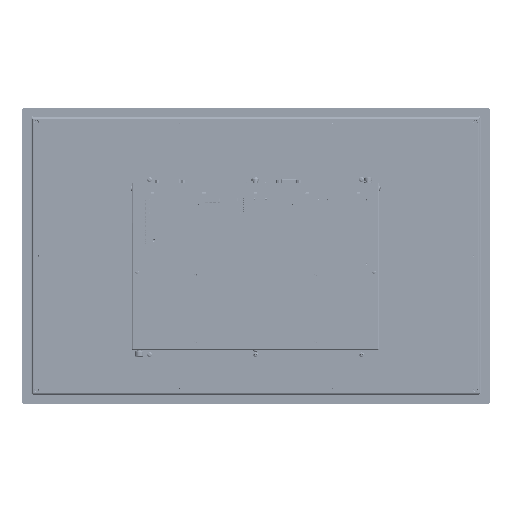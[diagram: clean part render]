
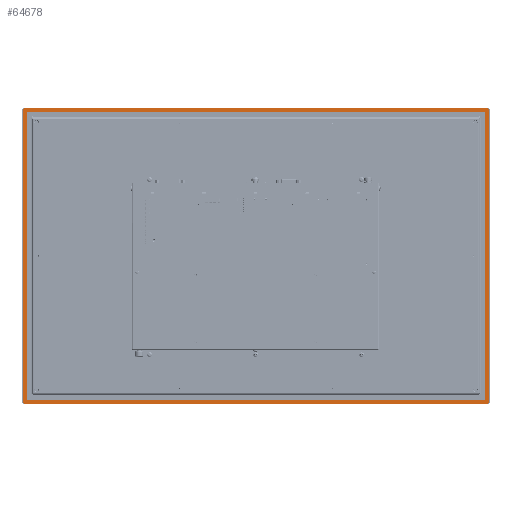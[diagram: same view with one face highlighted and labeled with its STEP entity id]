
A CAD part, front view. The second image highlights one B-rep face of the part: STEP entity #64678.
In plain terms, the highlighted planar face has unit normal (0, -1, 0).
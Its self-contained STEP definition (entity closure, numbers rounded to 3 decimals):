
#216 = VECTOR ( 'NONE', #595369, 1000. ) ;
#5799 = CARTESIAN_POINT ( 'NONE',  ( 283.25, 0.5, 180. ) ) ;
#6100 = CARTESIAN_POINT ( 'NONE',  ( -288.25, 0.5, 184. ) ) ;
#9720 = AXIS2_PLACEMENT_3D ( 'NONE', #310415, #46384, #246623 ) ;
#20400 = CARTESIAN_POINT ( 'NONE',  ( 282.25, 0.5, 181. ) ) ;
#21678 = EDGE_CURVE ( 'NONE', #822191, #480176, #439517, .T. ) ;
#46384 = DIRECTION ( 'NONE',  ( 0., -1., 0. ) ) ;
#46516 = ORIENTED_EDGE ( 'NONE', *, *, #21678, .F. ) ;
#49496 = VERTEX_POINT ( 'NONE', #373997 ) ;
#49665 = CARTESIAN_POINT ( 'NONE',  ( 286.25, 0.5, -177. ) ) ;
#51440 = VERTEX_POINT ( 'NONE', #67295 ) ;
#55913 = DIRECTION ( 'NONE',  ( 0., 0., 1. ) ) ;
#64678 = ADVANCED_FACE ( 'NONE', ( #754640, #401723 ), #76251, .T. ) ;
#66071 = CARTESIAN_POINT ( 'NONE',  ( 283.25, 0.5, -173. ) ) ;
#67295 = CARTESIAN_POINT ( 'NONE',  ( -282.25, 0.5, 181. ) ) ;
#68033 = EDGE_CURVE ( 'NONE', #578069, #822191, #477384, .T. ) ;
#69917 = DIRECTION ( 'NONE',  ( 0., 0., 1. ) ) ;
#73895 = CARTESIAN_POINT ( 'NONE',  ( 283.25, 0.5, -173. ) ) ;
#76251 = PLANE ( 'NONE',  #389884 ) ;
#82241 = CARTESIAN_POINT ( 'NONE',  ( -283.25, 0.5, 180. ) ) ;
#84056 = VECTOR ( 'NONE', #708251, 1000. ) ;
#105537 = VECTOR ( 'NONE', #423422, 1000. ) ;
#107739 = CARTESIAN_POINT ( 'NONE',  ( 286.25, 0.5, -179. ) ) ;
#112693 = CARTESIAN_POINT ( 'NONE',  ( -282.25, 0.5, -173. ) ) ;
#123185 = LINE ( 'NONE', #464792, #455495 ) ;
#146941 = CARTESIAN_POINT ( 'NONE',  ( 286.25, 0.5, -179. ) ) ;
#163082 = VERTEX_POINT ( 'NONE', #493853 ) ;
#178044 = LINE ( 'NONE', #693025, #105537 ) ;
#205346 = CARTESIAN_POINT ( 'NONE',  ( -286.25, 0.5, 186. ) ) ;
#208071 = AXIS2_PLACEMENT_3D ( 'NONE', #210409, #749844, #352369 ) ;
#210409 = CARTESIAN_POINT ( 'NONE',  ( -286.25, 0.5, -177. ) ) ;
#215835 = ORIENTED_EDGE ( 'NONE', *, *, #387143, .F. ) ;
#218406 = DIRECTION ( 'NONE',  ( 0., -1., 0. ) ) ;
#222502 = DIRECTION ( 'NONE',  ( 1., 0., 0. ) ) ;
#225695 = ORIENTED_EDGE ( 'NONE', *, *, #449659, .F. ) ;
#240923 = CIRCLE ( 'NONE', #208071, 2. ) ;
#246623 = DIRECTION ( 'NONE',  ( 0., 0., -1. ) ) ;
#248210 = CARTESIAN_POINT ( 'NONE',  ( 282.25, 0.5, 181. ) ) ;
#264758 = CARTESIAN_POINT ( 'NONE',  ( 286.25, 0.5, 184. ) ) ;
#267467 = VERTEX_POINT ( 'NONE', #20400 ) ;
#268394 = DIRECTION ( 'NONE',  ( 1., 0., 0. ) ) ;
#269979 = EDGE_CURVE ( 'NONE', #49496, #486771, #326264, .T. ) ;
#280053 = EDGE_CURVE ( 'NONE', #740466, #855498, #787160, .T. ) ;
#282230 = CARTESIAN_POINT ( 'NONE',  ( 0., 0.5, 0. ) ) ;
#294331 = ORIENTED_EDGE ( 'NONE', *, *, #269979, .F. ) ;
#298277 = EDGE_CURVE ( 'NONE', #267467, #51440, #473423, .T. ) ;
#299379 = VECTOR ( 'NONE', #860733, 1000. ) ;
#304335 = DIRECTION ( 'NONE',  ( 0., -1., 0. ) ) ;
#310415 = CARTESIAN_POINT ( 'NONE',  ( 282.25, 0.5, -173. ) ) ;
#315363 = AXIS2_PLACEMENT_3D ( 'NONE', #49665, #513902, #580652 ) ;
#316214 = ORIENTED_EDGE ( 'NONE', *, *, #356282, .F. ) ;
#326264 = LINE ( 'NONE', #467498, #606892 ) ;
#346884 = CIRCLE ( 'NONE', #394014, 2. ) ;
#348419 = CARTESIAN_POINT ( 'NONE',  ( 288.25, 0.5, -177. ) ) ;
#352369 = DIRECTION ( 'NONE',  ( 0., 0., -1. ) ) ;
#352388 = ORIENTED_EDGE ( 'NONE', *, *, #663897, .F. ) ;
#356282 = EDGE_CURVE ( 'NONE', #805268, #390129, #123185, .T. ) ;
#361595 = CARTESIAN_POINT ( 'NONE',  ( 282.25, 0.5, 180. ) ) ;
#365815 = CARTESIAN_POINT ( 'NONE',  ( 286.25, 0.5, 186. ) ) ;
#368197 = CARTESIAN_POINT ( 'NONE',  ( -286.25, 0.5, -179. ) ) ;
#372892 = ORIENTED_EDGE ( 'NONE', *, *, #741169, .F. ) ;
#373997 = CARTESIAN_POINT ( 'NONE',  ( -288.25, 0.5, -177. ) ) ;
#387143 = EDGE_CURVE ( 'NONE', #390129, #740466, #524156, .T. ) ;
#389884 = AXIS2_PLACEMENT_3D ( 'NONE', #282230, #218406, #801607 ) ;
#390129 = VERTEX_POINT ( 'NONE', #365815 ) ;
#393883 = ORIENTED_EDGE ( 'NONE', *, *, #298277, .F. ) ;
#394014 = AXIS2_PLACEMENT_3D ( 'NONE', #746401, #734976, #470977 ) ;
#395831 = EDGE_CURVE ( 'NONE', #855498, #718953, #500641, .T. ) ;
#401723 = FACE_OUTER_BOUND ( 'NONE', #507178, .T. ) ;
#420548 = CIRCLE ( 'NONE', #9720, 1. ) ;
#423422 = DIRECTION ( 'NONE',  ( 1., 0., 0. ) ) ;
#432085 = ORIENTED_EDGE ( 'NONE', *, *, #280053, .F. ) ;
#437413 = ORIENTED_EDGE ( 'NONE', *, *, #676811, .F. ) ;
#439517 = CIRCLE ( 'NONE', #838933, 1. ) ;
#443932 = VECTOR ( 'NONE', #732608, 1000. ) ;
#449659 = EDGE_CURVE ( 'NONE', #480176, #163082, #178044, .T. ) ;
#450681 = ORIENTED_EDGE ( 'NONE', *, *, #836974, .F. ) ;
#455495 = VECTOR ( 'NONE', #268394, 1000. ) ;
#461263 = EDGE_LOOP ( 'NONE', ( #225695, #46516, #804258, #489293, #393883, #450681, #372892, #437413 ) ) ;
#464792 = CARTESIAN_POINT ( 'NONE',  ( -286.25, 0.5, 186. ) ) ;
#467498 = CARTESIAN_POINT ( 'NONE',  ( -288.25, 0.5, -177. ) ) ;
#468053 = AXIS2_PLACEMENT_3D ( 'NONE', #361595, #750482, #222502 ) ;
#468781 = CARTESIAN_POINT ( 'NONE',  ( -282.25, 0.5, -174. ) ) ;
#470977 = DIRECTION ( 'NONE',  ( -1., 0., 0. ) ) ;
#473423 = LINE ( 'NONE', #248210, #650932 ) ;
#477384 = LINE ( 'NONE', #725939, #216 ) ;
#480176 = VERTEX_POINT ( 'NONE', #468781 ) ;
#486771 = VERTEX_POINT ( 'NONE', #6100 ) ;
#489293 = ORIENTED_EDGE ( 'NONE', *, *, #772555, .F. ) ;
#493853 = CARTESIAN_POINT ( 'NONE',  ( 282.25, 0.5, -174. ) ) ;
#500641 = CIRCLE ( 'NONE', #315363, 2. ) ;
#506345 = LINE ( 'NONE', #73895, #443932 ) ;
#507178 = EDGE_LOOP ( 'NONE', ( #432085, #215835, #316214, #569295, #294331, #352388, #670053, #841311 ) ) ;
#511381 = AXIS2_PLACEMENT_3D ( 'NONE', #264758, #531547, #55913 ) ;
#513902 = DIRECTION ( 'NONE',  ( 0., 1., 0. ) ) ;
#520395 = EDGE_CURVE ( 'NONE', #718953, #674214, #644555, .T. ) ;
#524156 = CIRCLE ( 'NONE', #511381, 2. ) ;
#531547 = DIRECTION ( 'NONE',  ( 0., 1., 0. ) ) ;
#569295 = ORIENTED_EDGE ( 'NONE', *, *, #594192, .F. ) ;
#574236 = AXIS2_PLACEMENT_3D ( 'NONE', #690097, #756814, #817762 ) ;
#578069 = VERTEX_POINT ( 'NONE', #82241 ) ;
#580652 = DIRECTION ( 'NONE',  ( 1., 0., 0. ) ) ;
#581827 = DIRECTION ( 'NONE',  ( -1., 0., 0. ) ) ;
#594192 = EDGE_CURVE ( 'NONE', #486771, #805268, #346884, .T. ) ;
#594445 = CARTESIAN_POINT ( 'NONE',  ( 288.25, 0.5, 184. ) ) ;
#595369 = DIRECTION ( 'NONE',  ( 0., 0., -1. ) ) ;
#606892 = VECTOR ( 'NONE', #69917, 1000. ) ;
#644555 = LINE ( 'NONE', #107739, #84056 ) ;
#646662 = DIRECTION ( 'NONE',  ( -1., 0., 0. ) ) ;
#650932 = VECTOR ( 'NONE', #581827, 1000. ) ;
#663897 = EDGE_CURVE ( 'NONE', #674214, #49496, #240923, .T. ) ;
#670053 = ORIENTED_EDGE ( 'NONE', *, *, #520395, .F. ) ;
#674214 = VERTEX_POINT ( 'NONE', #368197 ) ;
#676054 = VERTEX_POINT ( 'NONE', #66071 ) ;
#676811 = EDGE_CURVE ( 'NONE', #163082, #676054, #420548, .T. ) ;
#690097 = CARTESIAN_POINT ( 'NONE',  ( -282.25, 0.5, 180. ) ) ;
#693025 = CARTESIAN_POINT ( 'NONE',  ( -282.25, 0.5, -174. ) ) ;
#708251 = DIRECTION ( 'NONE',  ( -1., 0., 0. ) ) ;
#716766 = CIRCLE ( 'NONE', #574236, 1. ) ;
#718953 = VERTEX_POINT ( 'NONE', #146941 ) ;
#725939 = CARTESIAN_POINT ( 'NONE',  ( -283.25, 0.5, 180. ) ) ;
#727441 = VERTEX_POINT ( 'NONE', #5799 ) ;
#730269 = CARTESIAN_POINT ( 'NONE',  ( 288.25, 0.5, 184. ) ) ;
#732608 = DIRECTION ( 'NONE',  ( 0., 0., 1. ) ) ;
#734976 = DIRECTION ( 'NONE',  ( 0., 1., 0. ) ) ;
#740466 = VERTEX_POINT ( 'NONE', #594445 ) ;
#741169 = EDGE_CURVE ( 'NONE', #676054, #727441, #506345, .T. ) ;
#746401 = CARTESIAN_POINT ( 'NONE',  ( -286.25, 0.5, 184. ) ) ;
#749844 = DIRECTION ( 'NONE',  ( 0., 1., 0. ) ) ;
#750482 = DIRECTION ( 'NONE',  ( 0., -1., 0. ) ) ;
#754640 = FACE_BOUND ( 'NONE', #461263, .T. ) ;
#756814 = DIRECTION ( 'NONE',  ( 0., -1., 0. ) ) ;
#772555 = EDGE_CURVE ( 'NONE', #51440, #578069, #716766, .T. ) ;
#779044 = CIRCLE ( 'NONE', #468053, 1. ) ;
#787160 = LINE ( 'NONE', #730269, #299379 ) ;
#801607 = DIRECTION ( 'NONE',  ( -1., 0., 0. ) ) ;
#804258 = ORIENTED_EDGE ( 'NONE', *, *, #68033, .F. ) ;
#805268 = VERTEX_POINT ( 'NONE', #205346 ) ;
#809026 = CARTESIAN_POINT ( 'NONE',  ( -283.25, 0.5, -173. ) ) ;
#817762 = DIRECTION ( 'NONE',  ( 0., 0., 1. ) ) ;
#822191 = VERTEX_POINT ( 'NONE', #809026 ) ;
#836974 = EDGE_CURVE ( 'NONE', #727441, #267467, #779044, .T. ) ;
#838933 = AXIS2_PLACEMENT_3D ( 'NONE', #112693, #304335, #646662 ) ;
#841311 = ORIENTED_EDGE ( 'NONE', *, *, #395831, .F. ) ;
#855498 = VERTEX_POINT ( 'NONE', #348419 ) ;
#860733 = DIRECTION ( 'NONE',  ( 0., 0., -1. ) ) ;
